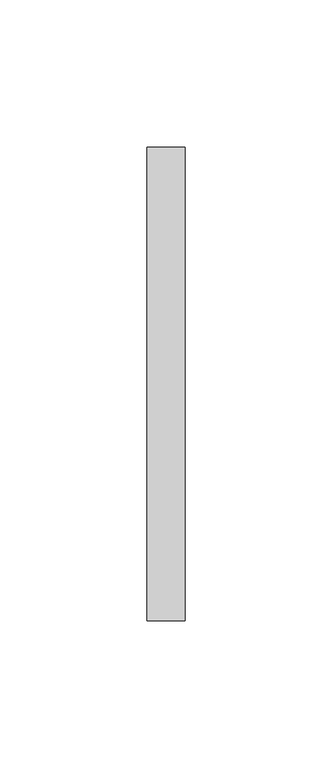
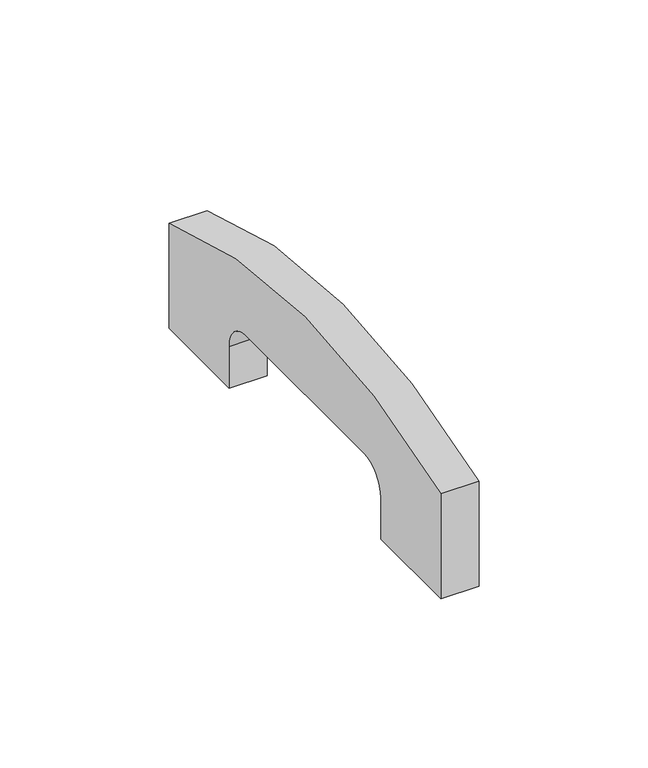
"""IFC4 building model written with IfcOpenShell, lengths in millimetres: cable carrier fitting geometry, КНС_АдаптерДляВводаКоробовВКоробкиBrava_ILF_DKC : 50х20, 50/2х20."""

from ifc_helpers import new_model, si_unit, point, frame, frame_2d, origin, place, context, project, spatial, polyline, circle_curve, trimmed, segment, composite_curve, outline, extrude, source, transform, mapped, element, save


def cable_carrier_fitting_b5b63672(model_context):
    return source(origin(), model_context, "Body", "SweptSolid", [
        extrude(outline(composite_curve([segment(polyline([(45.0, -12.5), (45.0, 2.5)]), True, "CONTINUOUS"), segment(trimmed(circle_curve(frame_2d((35.0, 2.5)), 10.0), [point((45.0, 2.5))], [point((35.0, 12.5))], True, "CARTESIAN"), True, "CONTINUOUS"), segment(polyline([(35.0, 12.5), (-35.0, 12.5)]), True, "CONTINUOUS"), segment(trimmed(circle_curve(frame_2d((-35.0, 2.5)), 10.0), [point((-35.0, 12.5))], [point((-45.0, 2.5))], True, "CARTESIAN"), True, "CONTINUOUS"), segment(polyline([(-45.0, 2.5), (-45.0, -12.5), (-80.5, -12.5), (-80.5, 25.5)]), True, "CONTINUOUS"), segment(trimmed(circle_curve(frame_2d((0.0, -183.0083333)), 223.5083333), [point((-80.5, 25.5))], [point((80.5, 25.5))], False, "CARTESIAN"), True, "CONTINUOUS"), segment(polyline([(80.5, 25.5), (80.5, -12.5), (45.0, -12.5)]), True, "CONTINUOUS")], self_intersect=False)), frame((-13.0, 0.0, 0.0), z_axis=(1.0, 0.0, 0.0), x_axis=(0.0, 1.0, 0.0)), (0.0, 0.0, 1.0), 13.0),
    ])


if __name__ == "__main__":
    model = new_model("IFC4")
    model_context = context("Model", 3, world=origin())
    ifc_project = project(units=[si_unit("LENGTHUNIT", "METRE", prefix="MILLI")], contexts=[model_context])
    site = spatial("IfcSite", under=ifc_project)
    building = spatial("IfcBuilding", under=site)
    placement = place(None, origin())
    cable_carrier_fitting_shape = cable_carrier_fitting_b5b63672(model_context)
    element("IfcCableCarrierFitting", 1, ObjectType="КНС_АдаптерДляВводаКоробовВКоробкиBrava_ILF_DKC : 50х20, 50/2х20", at=placement, inside=building, context=model_context, shape_type="MappedRepresentation", body=[
        mapped(cable_carrier_fitting_shape, transform((0.0, 0.0, 0.0), x_axis=(1.0, 0.0, 0.0), y_axis=(0.0, 1.0, 0.0), z_axis=(0.0, 0.0, 1.0))),
    ])
    save(model, "model.ifc")
